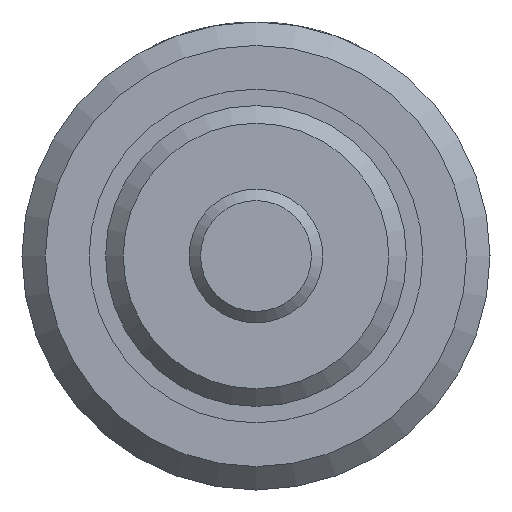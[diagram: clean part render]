
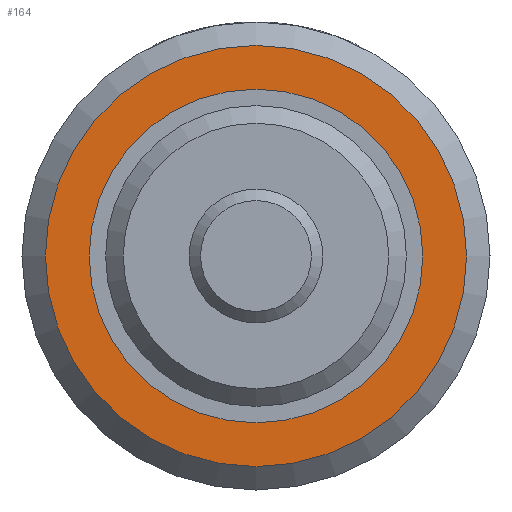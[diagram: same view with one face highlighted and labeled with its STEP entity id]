
A CAD part, left-side view. The second image highlights one B-rep face of the part: STEP entity #164.
In plain terms, the highlighted planar face has unit normal (-1, 0, 0).
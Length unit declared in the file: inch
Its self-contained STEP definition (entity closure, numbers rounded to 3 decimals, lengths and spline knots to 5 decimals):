
#164 = ADVANCED_FACE( '', ( #362, #363 ), #364, .F. );
#362 = FACE_OUTER_BOUND( '', #610, .T. );
#363 = FACE_BOUND( '', #611, .T. );
#364 = PLANE( '', #612 );
#610 = EDGE_LOOP( '', ( #886 ) );
#611 = EDGE_LOOP( '', ( #887 ) );
#612 = AXIS2_PLACEMENT_3D( '', #888, #889, #890 );
#886 = ORIENTED_EDGE( '', *, *, #1283, .F. );
#887 = ORIENTED_EDGE( '', *, *, #1284, .T. );
#888 = CARTESIAN_POINT( '', ( 0.5, 0.312, 0. ) );
#889 = DIRECTION( '', ( 1., 0., 0. ) );
#890 = DIRECTION( '', ( 0., 0., -1. ) );
#1283 = EDGE_CURVE( '', #1479, #1479, #1480, .T. );
#1284 = EDGE_CURVE( '', #1481, #1481, #1482, .T. );
#1479 = VERTEX_POINT( '', #1869 );
#1480 = CIRCLE( '', #1870, 0.39375 );
#1481 = VERTEX_POINT( '', #1871 );
#1482 = CIRCLE( '', #1872, 0.312 );
#1869 = CARTESIAN_POINT( '', ( 0.5, 0., -0.39375 ) );
#1870 = AXIS2_PLACEMENT_3D( '', #2236, #2237, #2238 );
#1871 = CARTESIAN_POINT( '', ( 0.5, 0., -0.312 ) );
#1872 = AXIS2_PLACEMENT_3D( '', #2239, #2240, #2241 );
#2236 = CARTESIAN_POINT( '', ( 0.5, 0., 0. ) );
#2237 = DIRECTION( '', ( 1., 0., 0. ) );
#2238 = DIRECTION( '', ( 0., 0., -1. ) );
#2239 = CARTESIAN_POINT( '', ( 0.5, 0., 0. ) );
#2240 = DIRECTION( '', ( 1., 0., 0. ) );
#2241 = DIRECTION( '', ( 0., 0., -1. ) );
